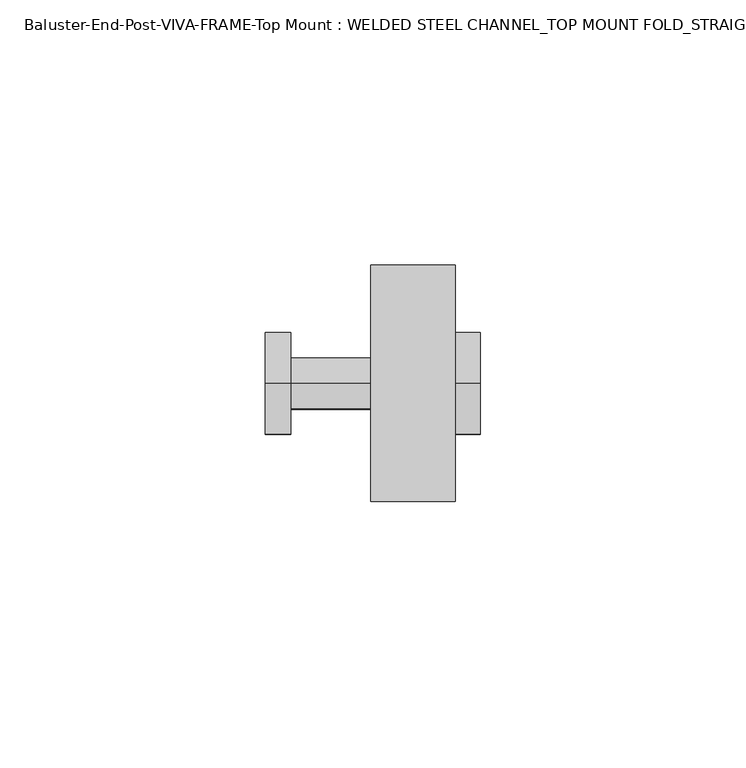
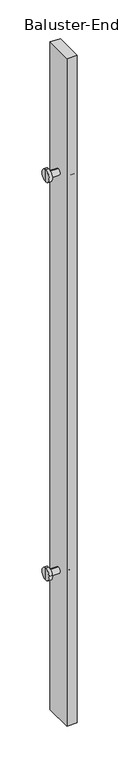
"""IFC4 building model written with IfcOpenShell, lengths in millimetres: proxy geometry, Baluster-End-Post-VIVA-FRAME-Top Mount : WELDED STEEL CHANNEL_TOP MOUNT FOLD_STRAIGHT."""

from ifc_helpers import new_model, si_unit, frame, origin, place, context, project, spatial, polyline, circle_curve, outline, extrude, source, transform, mapped, element, save
from ifc_brep_helpers import plane_surface, cylinder_surface, advanced_brep


def baluster_end_post_viva_frame_top_mount_welded_steel_channel_345f36c4(model_context):
    return source(origin(), model_context, "Body", "SolidModel", [
        extrude(outline(polyline([(7.9375, -78.2802567), (7.9375, -122.7302567), (-7.9375, -122.7302567), (-7.9375, -78.2802567), (7.9375, -78.2802567)])), frame((0.0, 0.0, 0.5143555), z_axis=(0.0, 0.0, 1.0), x_axis=(1.0, 0.0, 0.0)), (0.0, 0.0, 1.0), 1085.6546218),
        advanced_brep(
        [(-27.7749, -100.5078, 231.7496), (-27.7749, -100.5078, 250.8504), (-27.7749, -100.5078, 241.3), (-22.9997, -100.5078, 231.7496), (-22.9997, -100.5078, 250.8504), (-22.9997, -100.5078, 236.5248), (-22.9997, -100.5078, 246.0752), (7.9375, -100.5078, 236.5248), (7.9375, -100.5078, 246.0752), (7.9375, -100.5078, 231.7496), (7.9375, -100.5078, 250.8504), (12.7127, -100.5078, 231.7496), (12.7127, -100.5078, 250.8504), (12.7127, -100.5078, 241.3)],
        [
            (0, 1, circle_curve(frame((-27.7749, -100.5078, 241.3), z_axis=(-1.0, 0.0, 0.0), x_axis=(0.0, 0.0, 1.0)), 9.5504)),
            (1, 2),
            (2, 0),
            (1, 0, circle_curve(frame((-27.7749, -100.5078, 241.3), z_axis=(-1.0, 0.0, 0.0), x_axis=(0.0, 0.0, 1.0)), 9.5504)),
            (3, 4, circle_curve(frame((-22.9997, -100.5078, 241.3), z_axis=(-1.0, 0.0, 0.0), x_axis=(0.0, 0.0, 1.0)), 9.5504)),
            (4, 1),
            (0, 3),
            (4, 3, circle_curve(frame((-22.9997, -100.5078, 241.3), z_axis=(-1.0, 0.0, 0.0), x_axis=(0.0, 0.0, 1.0)), 9.5504)),
            (5, 6, circle_curve(frame((-22.9997, -100.5078, 241.3), z_axis=(-1.0, 0.0, 0.0), x_axis=(0.0, 0.0, 1.0)), 4.7752)),
            (6, 4),
            (3, 5),
            (6, 5, circle_curve(frame((-22.9997, -100.5078, 241.3), z_axis=(-1.0, 0.0, 0.0), x_axis=(0.0, 0.0, 1.0)), 4.7752)),
            (7, 8, circle_curve(frame((7.9375, -100.5078, 241.3), z_axis=(-1.0, 0.0, 0.0), x_axis=(0.0, 0.0, 1.0)), 4.7752)),
            (8, 6),
            (5, 7),
            (8, 7, circle_curve(frame((7.9375, -100.5078, 241.3), z_axis=(-1.0, 0.0, 0.0), x_axis=(0.0, 0.0, 1.0)), 4.7752)),
            (9, 10, circle_curve(frame((7.9375, -100.5078, 241.3), z_axis=(-1.0, 0.0, 0.0), x_axis=(0.0, 0.0, 1.0)), 9.5504)),
            (10, 8),
            (7, 9),
            (10, 9, circle_curve(frame((7.9375, -100.5078, 241.3), z_axis=(-1.0, 0.0, 0.0), x_axis=(0.0, 0.0, 1.0)), 9.5504)),
            (11, 12, circle_curve(frame((12.7127, -100.5078, 241.3), z_axis=(-1.0, 0.0, 0.0), x_axis=(0.0, 0.0, 1.0)), 9.5504)),
            (12, 10),
            (9, 11),
            (12, 11, circle_curve(frame((12.7127, -100.5078, 241.3), z_axis=(-1.0, 0.0, 0.0), x_axis=(0.0, 0.0, 1.0)), 9.5504)),
            (13, 12),
            (11, 13),
        ],
        [
            plane_surface(frame((-27.7749, -100.5078, 241.3), z_axis=(-1.0, 0.0, 0.0), x_axis=(0.0, 0.0, 1.0))),
            cylinder_surface(frame((-3419.3552571, -100.5078, 241.3), z_axis=(1.0, 0.0, 0.0), x_axis=(0.0, 0.0, 1.0)), 9.5504),
            plane_surface(frame((-22.9997, -100.5078, 241.3), z_axis=(1.0, 0.0, 0.0), x_axis=(0.0, 0.0, 1.0))),
            cylinder_surface(frame((-3419.3552571, -100.5078, 241.3), z_axis=(1.0, 0.0, 0.0), x_axis=(0.0, 0.0, 1.0)), 4.7752),
            plane_surface(frame((7.9375, -100.5078, 241.3), z_axis=(-1.0, 0.0, 0.0), x_axis=(0.0, 0.0, 1.0))),
            plane_surface(frame((12.7127, -100.5078, 241.3), z_axis=(1.0, 0.0, 0.0), x_axis=(0.0, 0.0, 1.0))),
        ],
        [
            (0, [[1, 2, 3]]),
            (0, [[4, -3, -2]]),
            (1, [[5, 6, -1, 7]]),
            (1, [[8, -7, -4, -6]]),
            (2, [[9, 10, -5, 11]]),
            (2, [[12, -11, -8, -10]]),
            (3, [[13, 14, -9, 15]]),
            (3, [[16, -15, -12, -14]]),
            (4, [[17, 18, -13, 19]]),
            (4, [[20, -19, -16, -18]]),
            (1, [[21, 22, -17, 23]]),
            (1, [[24, -23, -20, -22]]),
            (5, [[25, -21, 26]]),
            (5, [[-26, -24, -25]]),
        ],
    ),
        advanced_brep(
        [(-27.7749, -100.5078, 879.4559555), (-27.7749, -100.5078, 898.5567555), (-27.7749, -100.5078, 889.0063555), (-22.9997, -100.5078, 879.4559555), (-22.9997, -100.5078, 898.5567555), (-22.9997, -100.5078, 884.2311555), (-22.9997, -100.5078, 893.7815555), (7.9375, -100.5078, 884.2311555), (7.9375, -100.5078, 893.7815555), (7.9375, -100.5078, 879.4559555), (7.9375, -100.5078, 898.5567555), (12.7127, -100.5078, 879.4559555), (12.7127, -100.5078, 898.5567555), (12.7127, -100.5078, 889.0063555)],
        [
            (0, 1, circle_curve(frame((-27.7749, -100.5078, 889.0063555), z_axis=(-1.0, 0.0, 0.0), x_axis=(0.0, 0.0, 1.0)), 9.5504)),
            (1, 2),
            (2, 0),
            (1, 0, circle_curve(frame((-27.7749, -100.5078, 889.0063555), z_axis=(-1.0, 0.0, 0.0), x_axis=(0.0, 0.0, 1.0)), 9.5504)),
            (3, 4, circle_curve(frame((-22.9997, -100.5078, 889.0063555), z_axis=(-1.0, 0.0, 0.0), x_axis=(0.0, 0.0, 1.0)), 9.5504)),
            (4, 1),
            (0, 3),
            (4, 3, circle_curve(frame((-22.9997, -100.5078, 889.0063555), z_axis=(-1.0, 0.0, 0.0), x_axis=(0.0, 0.0, 1.0)), 9.5504)),
            (5, 6, circle_curve(frame((-22.9997, -100.5078, 889.0063555), z_axis=(-1.0, 0.0, 0.0), x_axis=(0.0, 0.0, 1.0)), 4.7752)),
            (6, 4),
            (3, 5),
            (6, 5, circle_curve(frame((-22.9997, -100.5078, 889.0063555), z_axis=(-1.0, 0.0, 0.0), x_axis=(0.0, 0.0, 1.0)), 4.7752)),
            (7, 8, circle_curve(frame((7.9375, -100.5078, 889.0063555), z_axis=(-1.0, 0.0, 0.0), x_axis=(0.0, 0.0, 1.0)), 4.7752)),
            (8, 6),
            (5, 7),
            (8, 7, circle_curve(frame((7.9375, -100.5078, 889.0063555), z_axis=(-1.0, 0.0, 0.0), x_axis=(0.0, 0.0, 1.0)), 4.7752)),
            (9, 10, circle_curve(frame((7.9375, -100.5078, 889.0063555), z_axis=(-1.0, 0.0, 0.0), x_axis=(0.0, 0.0, 1.0)), 9.5504)),
            (10, 8),
            (7, 9),
            (10, 9, circle_curve(frame((7.9375, -100.5078, 889.0063555), z_axis=(-1.0, 0.0, 0.0), x_axis=(0.0, 0.0, 1.0)), 9.5504)),
            (11, 12, circle_curve(frame((12.7127, -100.5078, 889.0063555), z_axis=(-1.0, 0.0, 0.0), x_axis=(0.0, 0.0, 1.0)), 9.5504)),
            (12, 10),
            (9, 11),
            (12, 11, circle_curve(frame((12.7127, -100.5078, 889.0063555), z_axis=(-1.0, 0.0, 0.0), x_axis=(0.0, 0.0, 1.0)), 9.5504)),
            (13, 12),
            (11, 13),
        ],
        [
            plane_surface(frame((-27.7749, -100.5078, 889.0063555), z_axis=(-1.0, 0.0, 0.0), x_axis=(0.0, 0.0, 1.0))),
            cylinder_surface(frame((-3419.3552571, -100.5078, 889.0063555), z_axis=(1.0, 0.0, 0.0), x_axis=(0.0, 0.0, 1.0)), 9.5504),
            plane_surface(frame((-22.9997, -100.5078, 889.0063555), z_axis=(1.0, 0.0, 0.0), x_axis=(0.0, 0.0, 1.0))),
            cylinder_surface(frame((-3419.3552571, -100.5078, 889.0063555), z_axis=(1.0, 0.0, 0.0), x_axis=(0.0, 0.0, 1.0)), 4.7752),
            plane_surface(frame((7.9375, -100.5078, 889.0063555), z_axis=(-1.0, 0.0, 0.0), x_axis=(0.0, 0.0, 1.0))),
            plane_surface(frame((12.7127, -100.5078, 889.0063555), z_axis=(1.0, 0.0, 0.0), x_axis=(0.0, 0.0, 1.0))),
        ],
        [
            (0, [[1, 2, 3]]),
            (0, [[4, -3, -2]]),
            (1, [[5, 6, -1, 7]]),
            (1, [[8, -7, -4, -6]]),
            (2, [[9, 10, -5, 11]]),
            (2, [[12, -11, -8, -10]]),
            (3, [[13, 14, -9, 15]]),
            (3, [[16, -15, -12, -14]]),
            (4, [[17, 18, -13, 19]]),
            (4, [[20, -19, -16, -18]]),
            (1, [[21, 22, -17, 23]]),
            (1, [[24, -23, -20, -22]]),
            (5, [[25, -21, 26]]),
            (5, [[-26, -24, -25]]),
        ],
    ),
    ])


if __name__ == "__main__":
    model = new_model("IFC4")
    model_context = context("Model", 3, world=origin())
    ifc_project = project(units=[si_unit("LENGTHUNIT", "METRE", prefix="MILLI")], contexts=[model_context])
    site = spatial("IfcSite", under=ifc_project)
    building = spatial("IfcBuilding", under=site)
    placement = place(None, origin())
    baluster_end_post_viva_frame_top_mount_welded_steel_channel_shape = baluster_end_post_viva_frame_top_mount_welded_steel_channel_345f36c4(model_context)
    element("IfcBuildingElementProxy", 1, Name="Baluster-End-Post-VIVA-FRAME-Top Mount : WELDED STEEL CHANNEL_TOP MOUNT FOLD_STRAIGHT", ObjectType="Baluster-End-Post-VIVA-FRAME-Top Mount : WELDED STEEL CHANNEL_TOP MOUNT FOLD_STRAIGHT", at=placement, inside=building, context=model_context, shape_type="MappedRepresentation", body=[
        mapped(baluster_end_post_viva_frame_top_mount_welded_steel_channel_shape, transform((0.0, 0.0, 0.0), x_axis=(1.0, 0.0, 0.0), y_axis=(0.0, 1.0, 0.0), z_axis=(0.0, 0.0, 1.0))),
    ])
    save(model, "model.ifc")
